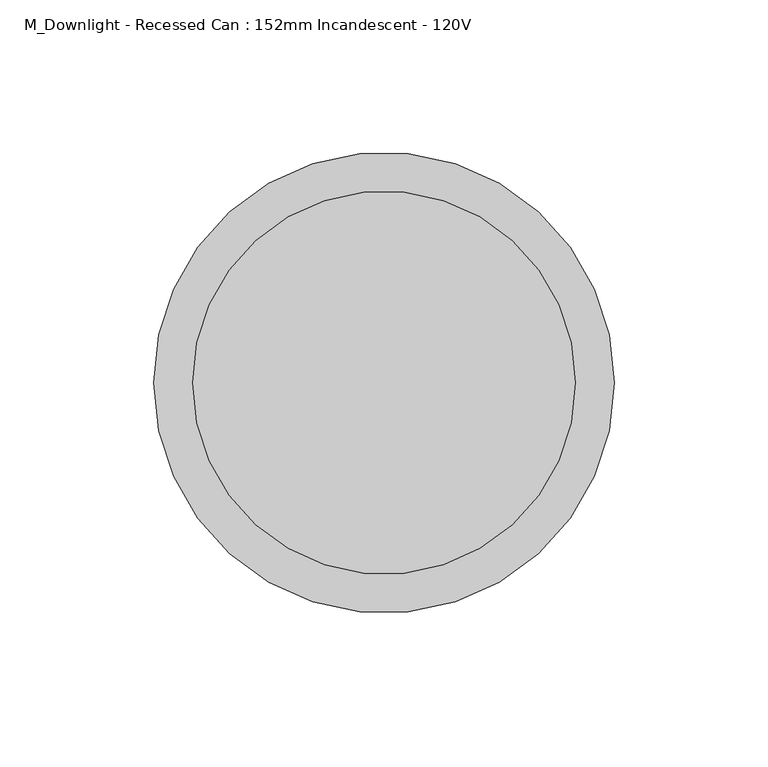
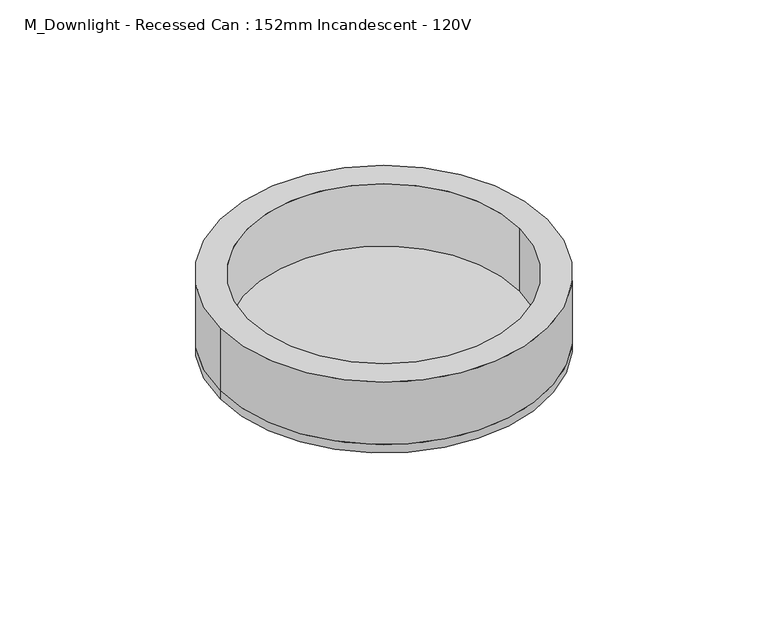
"""IFC4 building model written with IfcOpenShell, lengths in millimetres: light fixture geometry, M_Downlight - Recessed Can : 152mm Incandescent - 120V."""

from ifc_helpers import new_model, si_unit, point, frame, origin, origin_2d, place, context, project, spatial, circle_curve, trimmed, segment, composite_curve, outline, extrude, source, transform, mapped, element, save


def m_downlight_recessed_can_152mm_incandescent_120v_1ee42939(model_context):
    return source(origin(), model_context, "Body", "SweptSolid", [
        extrude(outline(composite_curve([segment(trimmed(circle_curve(origin_2d(), 75.0), [point((-75.0, 0.0))], [point((75.0, 0.0))], False, "CARTESIAN"), True, "CONTINUOUS"), segment(trimmed(circle_curve(origin_2d(), 75.0), [point((75.0, 0.0))], [point((-75.0, 0.0))], False, "CARTESIAN"), True, "CONTINUOUS")], self_intersect=False), holes=[composite_curve([segment(trimmed(circle_curve(origin_2d(), 62.3), [point((-62.3, 0.0))], [point((62.3, 0.0))], True, "CARTESIAN"), True, "CONTINUOUS"), segment(trimmed(circle_curve(origin_2d(), 62.3), [point((62.3, 0.0))], [point((-62.3, 0.0))], True, "CARTESIAN"), True, "CONTINUOUS")], self_intersect=False)]), frame((0.0, 0.0, 2518.6), z_axis=(0.0, 0.0, 1.0), x_axis=(1.0, 0.0, 0.0)), (0.0, 0.0, 1.0), 30.3358901),
        extrude(outline(composite_curve([segment(trimmed(circle_curve(origin_2d(), 75.0), [point((-75.0, 0.0))], [point((75.0, 0.0))], False, "CARTESIAN"), True, "CONTINUOUS"), segment(trimmed(circle_curve(origin_2d(), 75.0), [point((75.0, 0.0))], [point((-75.0, 0.0))], False, "CARTESIAN"), True, "CONTINUOUS")], self_intersect=False)), frame((0.0, 0.0, 2514.6), z_axis=(0.0, 0.0, 1.0), x_axis=(1.0, 0.0, 0.0)), (0.0, 0.0, 1.0), 4.0),
    ])


if __name__ == "__main__":
    model = new_model("IFC4")
    model_context = context("Model", 3, world=origin())
    ifc_project = project(units=[si_unit("LENGTHUNIT", "METRE", prefix="MILLI")], contexts=[model_context])
    site = spatial("IfcSite", under=ifc_project)
    building = spatial("IfcBuilding", under=site)
    placement = place(None, origin())
    m_downlight_recessed_can_152mm_incandescent_120v_shape = m_downlight_recessed_can_152mm_incandescent_120v_1ee42939(model_context)
    element("IfcLightFixture", 1, ObjectType="M_Downlight - Recessed Can : 152mm Incandescent - 120V", at=placement, inside=building, context=model_context, shape_type="MappedRepresentation", body=[
        mapped(m_downlight_recessed_can_152mm_incandescent_120v_shape, transform((0.0, 0.0, 0.0), x_axis=(1.0, 0.0, 0.0), y_axis=(0.0, 1.0, 0.0), z_axis=(0.0, 0.0, 1.0))),
    ])
    save(model, "model.ifc")
